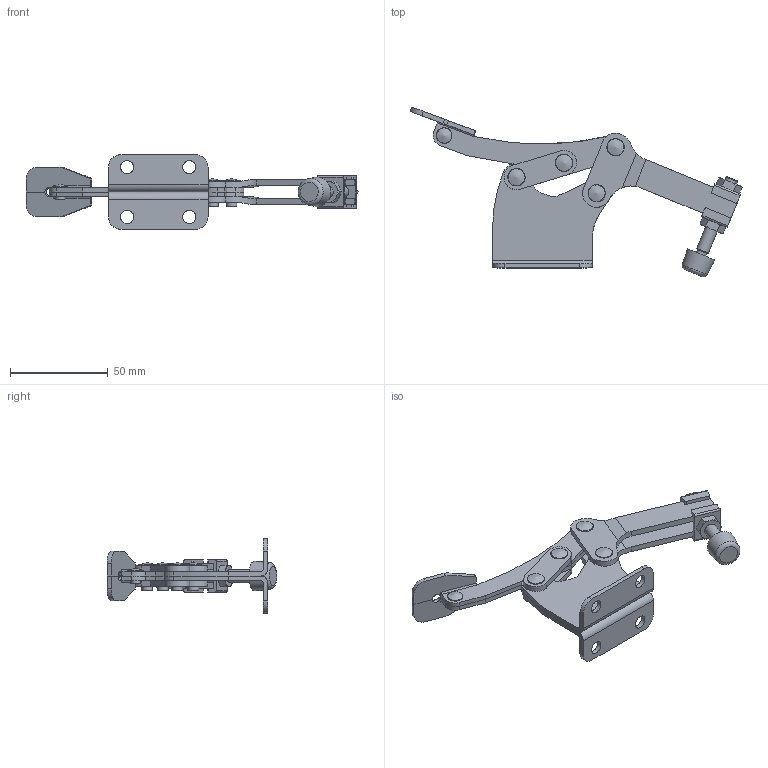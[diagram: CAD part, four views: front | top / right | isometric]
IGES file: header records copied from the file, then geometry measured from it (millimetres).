
Global section: file name: H-400x20; native system: Autodesk RealDWG; preprocessor: Autodesk Translation Framework DWG producer (atf_dwg_producer); author: rtaylor; organization: unknown; date: 20151021.123353; units: inch
Bounding box: 169.49 x 86.71 x 38.1 mm (x, y, z)
Volume: 37575.6 mm3; surface area: 36493.7 mm2
Topology: 19 solids, 19 shells, 308 faces, 815 edges, 552 vertices
Faces by surface type: bspline 308
